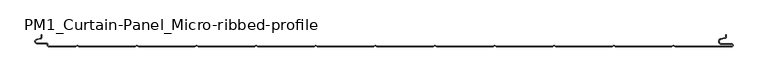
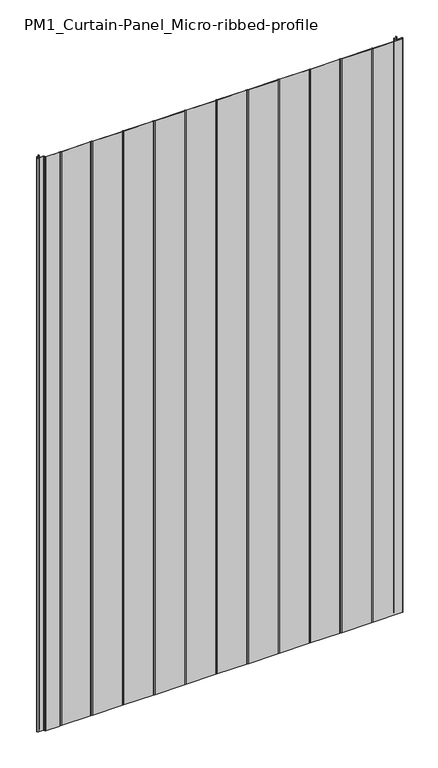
"""IFC4 building model written with IfcOpenShell, lengths in millimetres: plate geometry, PM1_Curtain-Panel_Micro-ribbed-profile : ACH_PM1_Acoustic-Sectioning-Panel_100M."""

from ifc_helpers import new_model, si_unit, frame, origin, place, context, project, spatial, polyline, circle_curve, source, transform, mapped, element, save
from ifc_brep_helpers import plane_surface, cylinder_surface, revolved_surface, advanced_brep


def pm1_curtain_panel_micro_ribbed_profile_cca0c929(model_context):
    return source(origin(), model_context, "Body", "AdvancedBrep", [
        advanced_brep(
        [(-575.0, -84.121443, 1945.7507136), (-576.5500978, -86.0701831, 1945.7507136), (-582.7098239, -87.492268, 1945.7507136), (-581.9, -94.6, 1945.7507136), (-566.4, -94.6, 1945.7507136), (-564.4, -96.6, 1945.7507136), (-564.4, -98.0, 1945.7507136), (-562.4, -100.0, 1945.7507136), (-517.0999995, -100.0, 1945.7507136), (-514.4, -98.4411545, 1945.7507136), (-511.7000005, -100.0, 1945.7507136), (-417.0999995, -100.0, 1945.7507136), (-414.4, -98.4411545, 1945.7507136), (-411.7000005, -100.0, 1945.7507136), (-317.0999995, -100.0, 1945.7507136), (-314.4, -98.4411545, 1945.7507136), (-311.7000005, -100.0, 1945.7507136), (-217.0999995, -100.0, 1945.7507136), (-214.4, -98.4411545, 1945.7507136), (-211.7000005, -100.0, 1945.7507136), (-117.0999995, -100.0, 1945.7507136), (-114.4, -98.4411545, 1945.7507136), (-111.7000005, -100.0, 1945.7507136), (-17.0999995, -100.0, 1945.7507136), (-14.4, -98.4411545, 1945.7507136), (-11.7000005, -100.0, 1945.7507136), (82.9000005, -100.0, 1945.7507136), (85.6, -98.4411545, 1945.7507136), (88.2999995, -100.0, 1945.7507136), (182.9000005, -100.0, 1945.7507136), (185.6, -98.4411545, 1945.7507136), (188.2999995, -100.0, 1945.7507136), (282.9000005, -100.0, 1945.7507136), (285.6, -98.4411545, 1945.7507136), (288.2999995, -100.0, 1945.7507136), (382.9000005, -100.0, 1945.7507136), (385.6, -98.4411545, 1945.7507136), (388.2999995, -100.0, 1945.7507136), (482.9000005, -100.0, 1945.7507136), (485.6, -98.4411545, 1945.7507136), (488.2999995, -100.0, 1945.7507136), (583.1, -100.0, 1945.7507136), (585.6, -97.5, 1945.7507136), (583.1, -95.0, 1945.7507136), (566.1, -95.0, 1945.7507136), (565.405407, -87.060769, 1945.7507136), (571.8514855, -85.9241509, 1945.7507136), (574.0, -83.3636508, 1945.7507136), (574.0, -80.0, 1945.7507136), (573.2, -80.0, 1945.7507136), (573.2, -83.3636508, 1945.7507136), (571.7125669, -85.1363047, 1945.7507136), (565.2664884, -86.2729228, 1945.7507136), (566.1, -95.8, 1945.7507136), (583.1, -95.8, 1945.7507136), (583.1, -99.2, 1945.7507136), (488.5143588, -99.2, 1945.7507136), (485.6, -97.517394, 1945.7507136), (482.6856412, -99.2, 1945.7507136), (388.5143588, -99.2, 1945.7507136), (385.6, -97.517394, 1945.7507136), (382.6856412, -99.2, 1945.7507136), (288.5143588, -99.2, 1945.7507136), (285.6, -97.517394, 1945.7507136), (282.6856412, -99.2, 1945.7507136), (188.5143588, -99.2, 1945.7507136), (185.6, -97.517394, 1945.7507136), (182.6856412, -99.2, 1945.7507136), (88.5143588, -99.2, 1945.7507136), (85.6, -97.517394, 1945.7507136), (82.6856412, -99.2, 1945.7507136), (-11.4856412, -99.2, 1945.7507136), (-14.4, -97.517394, 1945.7507136), (-17.3143588, -99.2, 1945.7507136), (-111.4856412, -99.2, 1945.7507136), (-114.4, -97.517394, 1945.7507136), (-117.3143588, -99.2, 1945.7507136), (-211.4856412, -99.2, 1945.7507136), (-214.4, -97.517394, 1945.7507136), (-217.3143588, -99.2, 1945.7507136), (-311.4856412, -99.2, 1945.7507136), (-314.4, -97.517394, 1945.7507136), (-317.3143588, -99.2, 1945.7507136), (-411.4856412, -99.2, 1945.7507136), (-414.4, -97.517394, 1945.7507136), (-417.3143588, -99.2, 1945.7507136), (-511.4856412, -99.2, 1945.7507136), (-514.4, -97.517394, 1945.7507136), (-517.3143588, -99.2, 1945.7507136), (-562.4, -99.2, 1945.7507136), (-563.6, -98.0, 1945.7507136), (-563.6, -96.6, 1945.7507136), (-566.4, -93.8, 1945.7507136), (-581.9, -93.8, 1945.7507136), (-582.529863, -88.2717638, 1945.7507136), (-576.370137, -86.849679, 1945.7507136), (-574.2, -84.121443, 1945.7507136), (-574.2, -80.0, 1945.7507136), (-575.0, -80.0, 1945.7507136), (-575.0, -84.121443, 0.0), (-575.0, -80.0, 0.0), (-574.2, -80.0, 0.0), (-574.2, -84.121443, 0.0), (-576.370137, -86.8496792, 0.0), (-582.529863, -88.271764, 0.0), (-581.9, -93.8, 0.0), (-566.4, -93.8, 0.0), (-563.6, -96.6, 0.0), (-563.6, -98.0, 0.0), (-562.4, -99.2, 0.0), (-517.3143588, -99.2, 0.0), (-514.4, -97.517394, 0.0), (-511.4856412, -99.2, 0.0), (-417.3143588, -99.2, 0.0), (-414.4, -97.517394, 0.0), (-411.4856412, -99.2, 0.0), (-317.3143588, -99.2, 0.0), (-314.4, -97.517394, 0.0), (-311.4856412, -99.2, 0.0), (-217.3143588, -99.2, 0.0), (-214.4, -97.517394, 0.0), (-211.4856412, -99.2, 0.0), (-117.3143588, -99.2, 0.0), (-114.4, -97.517394, 0.0), (-111.4856412, -99.2, 0.0), (-17.3143588, -99.2, 0.0), (-14.4, -97.517394, 0.0), (-11.4856412, -99.2, 0.0), (82.6856412, -99.2, 0.0), (85.6, -97.517394, 0.0), (88.5143588, -99.2, 0.0), (182.6856412, -99.2, 0.0), (185.6, -97.517394, 0.0), (188.5143588, -99.2, 0.0), (282.6856412, -99.2, 0.0), (285.6, -97.517394, 0.0), (288.5143588, -99.2, 0.0), (382.6856412, -99.2, 0.0), (385.6, -97.517394, 0.0), (388.5143588, -99.2, 0.0), (482.6856412, -99.2, 0.0), (485.6, -97.517394, 0.0), (488.5143588, -99.2, 0.0), (583.1, -99.2, 0.0), (583.1, -95.8, 0.0), (566.1, -95.8, 0.0), (565.2664884, -86.2729229, 0.0), (571.7125669, -85.1363047, 0.0), (573.2, -83.3636508, 0.0), (573.2, -80.0, 0.0), (574.0, -80.0, 0.0), (574.0, -83.3636508, 0.0), (571.8514855, -85.9241509, 0.0), (565.405407, -87.060769, 0.0), (566.1, -95.0, 0.0), (583.1, -95.0, 0.0), (585.6, -97.5, 0.0), (583.1, -100.0, 0.0), (488.2999995, -100.0, 0.0), (485.6, -98.4411545, 0.0), (482.9000005, -100.0, 0.0), (388.2999995, -100.0, 0.0), (385.6, -98.4411545, 0.0), (382.9000005, -100.0, 0.0), (288.2999995, -100.0, 0.0), (285.6, -98.4411545, 0.0), (282.9000005, -100.0, 0.0), (188.2999995, -100.0, 0.0), (185.6, -98.4411545, 0.0), (182.9000005, -100.0, 0.0), (88.2999995, -100.0, 0.0), (85.6, -98.4411545, 0.0), (82.9000005, -100.0, 0.0), (-11.7000005, -100.0, 0.0), (-14.4, -98.4411545, 0.0), (-17.0999995, -100.0, 0.0), (-111.7000005, -100.0, 0.0), (-114.4, -98.4411545, 0.0), (-117.0999995, -100.0, 0.0), (-211.7000005, -100.0, 0.0), (-214.4, -98.4411545, 0.0), (-217.0999995, -100.0, 0.0), (-311.7000005, -100.0, 0.0), (-314.4, -98.4411545, 0.0), (-317.0999995, -100.0, 0.0), (-411.7000005, -100.0, 0.0), (-414.4, -98.4411545, 0.0), (-417.0999995, -100.0, 0.0), (-511.7000005, -100.0, 0.0), (-514.4, -98.4411545, 0.0), (-517.0999995, -100.0, 0.0), (-562.4, -100.0, 0.0), (-564.4, -98.0, 0.0), (-564.4, -96.6, 0.0), (-566.4, -94.6, 0.0), (-581.9, -94.6, 0.0), (-582.7098239, -87.4922678, 0.0), (-576.5500979, -86.070183, 0.0)],
        [
            (0, 1, circle_curve(frame((-577.0, -84.121443, 1945.7507136), z_axis=(0.0, 0.0, -1.0), x_axis=(1.0, 0.0, 0.0)), 2.0)),
            (1, 2),
            (2, 3, circle_curve(frame((-581.9, -91.0, 1945.7507136), z_axis=(0.0, 0.0, 1.0), x_axis=(1.0, 0.0, 0.0)), 3.6)),
            (3, 4),
            (4, 5, circle_curve(frame((-566.4, -96.6, 1945.7507136), z_axis=(0.0, 0.0, -1.0), x_axis=(1.0, 0.0, 0.0)), 2.0)),
            (5, 6),
            (6, 7, circle_curve(frame((-562.4, -98.0, 1945.7507136), z_axis=(0.0, 0.0, 1.0), x_axis=(1.0, 0.0, 0.0)), 2.0)),
            (7, 8),
            (8, 9),
            (9, 10),
            (10, 11),
            (11, 12),
            (12, 13),
            (13, 14),
            (14, 15),
            (15, 16),
            (16, 17),
            (17, 18),
            (18, 19),
            (19, 20),
            (20, 21),
            (21, 22),
            (22, 23),
            (23, 24),
            (24, 25),
            (25, 26),
            (26, 27),
            (27, 28),
            (28, 29),
            (29, 30),
            (30, 31),
            (31, 32),
            (32, 33),
            (33, 34),
            (34, 35),
            (35, 36),
            (36, 37),
            (37, 38),
            (38, 39),
            (39, 40),
            (40, 41),
            (41, 42, circle_curve(frame((583.1, -97.5, 1945.7507136), z_axis=(0.0, 0.0, 1.0), x_axis=(1.0, 0.0, 0.0)), 2.5)),
            (42, 43, circle_curve(frame((583.1, -97.5, 1945.7507136), z_axis=(0.0, 0.0, 1.0), x_axis=(1.0, 0.0, 0.0)), 2.5)),
            (43, 44),
            (44, 45, circle_curve(frame((566.1, -91.0, 1945.7507136), z_axis=(0.0, 0.0, -1.0), x_axis=(1.0, 0.0, 0.0)), 4.0)),
            (45, 46),
            (46, 47, circle_curve(frame((571.4, -83.3636508, 1945.7507136), z_axis=(0.0, 0.0, 1.0), x_axis=(1.0, 0.0, 0.0)), 2.6)),
            (47, 48),
            (48, 49),
            (49, 50),
            (50, 51, circle_curve(frame((571.4, -83.3636508, 1945.7507136), z_axis=(0.0, 0.0, -1.0), x_axis=(1.0, 0.0, 0.0)), 1.8)),
            (51, 52),
            (52, 53, circle_curve(frame((566.1, -91.0, 1945.7507136), z_axis=(0.0, 0.0, 1.0), x_axis=(1.0, 0.0, 0.0)), 4.8)),
            (53, 54),
            (54, 55, circle_curve(frame((583.1, -97.5, 1945.7507136), z_axis=(0.0, 0.0, -1.0), x_axis=(1.0, 0.0, 0.0)), 1.7)),
            (55, 56),
            (56, 57),
            (57, 58),
            (58, 59),
            (59, 60),
            (60, 61),
            (61, 62),
            (62, 63),
            (63, 64),
            (64, 65),
            (65, 66),
            (66, 67),
            (67, 68),
            (68, 69),
            (69, 70),
            (70, 71),
            (71, 72),
            (72, 73),
            (73, 74),
            (74, 75),
            (75, 76),
            (76, 77),
            (77, 78),
            (78, 79),
            (79, 80),
            (80, 81),
            (81, 82),
            (82, 83),
            (83, 84),
            (84, 85),
            (85, 86),
            (86, 87),
            (87, 88),
            (88, 89),
            (89, 90, circle_curve(frame((-562.4, -98.0, 1945.7507136), z_axis=(0.0, 0.0, -1.0), x_axis=(1.0, 0.0, 0.0)), 1.2)),
            (90, 91),
            (91, 92, circle_curve(frame((-566.4, -96.6, 1945.7507136), z_axis=(0.0, 0.0, 1.0), x_axis=(1.0, 0.0, 0.0)), 2.8)),
            (92, 93),
            (93, 94, circle_curve(frame((-581.9, -91.0, 1945.7507136), z_axis=(0.0, 0.0, -1.0), x_axis=(1.0, 0.0, 0.0)), 2.8)),
            (94, 95),
            (95, 96, circle_curve(frame((-577.0, -84.121443, 1945.7507136), z_axis=(0.0, 0.0, 1.0), x_axis=(1.0, 0.0, 0.0)), 2.8)),
            (96, 97),
            (97, 98),
            (98, 0),
            (99, 100),
            (100, 101),
            (101, 102),
            (102, 103, circle_curve(frame((-577.0, -84.121443, 0.0), z_axis=(0.0, 0.0, -1.0), x_axis=(1.0, 0.0, 0.0)), 2.8)),
            (103, 104),
            (104, 105, circle_curve(frame((-581.9, -91.0, 0.0), z_axis=(0.0, 0.0, 1.0), x_axis=(1.0, 0.0, 0.0)), 2.8)),
            (105, 106),
            (106, 107, circle_curve(frame((-566.4, -96.6, 0.0), z_axis=(0.0, 0.0, -1.0), x_axis=(1.0, 0.0, 0.0)), 2.8)),
            (107, 108),
            (108, 109, circle_curve(frame((-562.4, -98.0, 0.0), z_axis=(0.0, 0.0, 1.0), x_axis=(1.0, 0.0, 0.0)), 1.2)),
            (109, 110),
            (110, 111),
            (111, 112),
            (112, 113),
            (113, 114),
            (114, 115),
            (115, 116),
            (116, 117),
            (117, 118),
            (118, 119),
            (119, 120),
            (120, 121),
            (121, 122),
            (122, 123),
            (123, 124),
            (124, 125),
            (125, 126),
            (126, 127),
            (127, 128),
            (128, 129),
            (129, 130),
            (130, 131),
            (131, 132),
            (132, 133),
            (133, 134),
            (134, 135),
            (135, 136),
            (136, 137),
            (137, 138),
            (138, 139),
            (139, 140),
            (140, 141),
            (141, 142),
            (142, 143),
            (143, 144, circle_curve(frame((583.1, -97.5, 0.0), z_axis=(0.0, 0.0, 1.0), x_axis=(1.0, 0.0, 0.0)), 1.7)),
            (144, 145),
            (145, 146, circle_curve(frame((566.1, -91.0, 0.0), z_axis=(0.0, 0.0, -1.0), x_axis=(1.0, 0.0, 0.0)), 4.8)),
            (146, 147),
            (147, 148, circle_curve(frame((571.4, -83.3636508, 0.0), z_axis=(0.0, 0.0, 1.0), x_axis=(1.0, 0.0, 0.0)), 1.8)),
            (148, 149),
            (149, 150),
            (150, 151),
            (151, 152, circle_curve(frame((571.4, -83.3636508, 0.0), z_axis=(0.0, 0.0, -1.0), x_axis=(1.0, 0.0, 0.0)), 2.6)),
            (152, 153),
            (153, 154, circle_curve(frame((566.1, -91.0, 0.0), z_axis=(0.0, 0.0, 1.0), x_axis=(1.0, 0.0, 0.0)), 4.0)),
            (154, 155),
            (155, 156, circle_curve(frame((583.1, -97.5, 0.0), z_axis=(0.0, 0.0, -1.0), x_axis=(1.0, 0.0, 0.0)), 2.5)),
            (156, 157, circle_curve(frame((583.1, -97.5, 0.0), z_axis=(0.0, 0.0, -1.0), x_axis=(1.0, 0.0, 0.0)), 2.5)),
            (157, 158),
            (158, 159),
            (159, 160),
            (160, 161),
            (161, 162),
            (162, 163),
            (163, 164),
            (164, 165),
            (165, 166),
            (166, 167),
            (167, 168),
            (168, 169),
            (169, 170),
            (170, 171),
            (171, 172),
            (172, 173),
            (173, 174),
            (174, 175),
            (175, 176),
            (176, 177),
            (177, 178),
            (178, 179),
            (179, 180),
            (180, 181),
            (181, 182),
            (182, 183),
            (183, 184),
            (184, 185),
            (185, 186),
            (186, 187),
            (187, 188),
            (188, 189),
            (189, 190),
            (190, 191),
            (191, 192, circle_curve(frame((-562.4, -98.0, 0.0), z_axis=(0.0, 0.0, -1.0), x_axis=(1.0, 0.0, 0.0)), 2.0)),
            (192, 193),
            (193, 194, circle_curve(frame((-566.4, -96.6, 0.0), z_axis=(0.0, 0.0, 1.0), x_axis=(1.0, 0.0, 0.0)), 2.0)),
            (194, 195),
            (195, 196, circle_curve(frame((-581.9, -91.0, 0.0), z_axis=(0.0, 0.0, -1.0), x_axis=(1.0, 0.0, 0.0)), 3.6)),
            (196, 197),
            (197, 99, circle_curve(frame((-577.0, -84.121443, 0.0), z_axis=(0.0, 0.0, 1.0), x_axis=(1.0, 0.0, 0.0)), 2.0)),
            (0, 99),
            (197, 1),
            (196, 2),
            (195, 3),
            (194, 4),
            (193, 5),
            (192, 6),
            (191, 7),
            (190, 8),
            (189, 9),
            (188, 10),
            (187, 11),
            (186, 12),
            (185, 13),
            (184, 14),
            (183, 15),
            (182, 16),
            (181, 17),
            (180, 18),
            (179, 19),
            (178, 20),
            (177, 21),
            (176, 22),
            (175, 23),
            (174, 24),
            (173, 25),
            (172, 26),
            (171, 27),
            (170, 28),
            (169, 29),
            (168, 30),
            (167, 31),
            (166, 32),
            (165, 33),
            (164, 34),
            (163, 35),
            (162, 36),
            (161, 37),
            (160, 38),
            (159, 39),
            (158, 40),
            (157, 41),
            (155, 43),
            (154, 44),
            (153, 45),
            (152, 46),
            (151, 47),
            (150, 48),
            (149, 49),
            (148, 50),
            (147, 51),
            (146, 52),
            (145, 53),
            (144, 54),
            (143, 55),
            (142, 56),
            (141, 57),
            (140, 58),
            (139, 59),
            (138, 60),
            (137, 61),
            (136, 62),
            (135, 63),
            (134, 64),
            (133, 65),
            (132, 66),
            (131, 67),
            (130, 68),
            (129, 69),
            (128, 70),
            (127, 71),
            (126, 72),
            (125, 73),
            (124, 74),
            (123, 75),
            (122, 76),
            (121, 77),
            (120, 78),
            (119, 79),
            (118, 80),
            (117, 81),
            (116, 82),
            (115, 83),
            (114, 84),
            (113, 85),
            (112, 86),
            (111, 87),
            (110, 88),
            (109, 89),
            (108, 90),
            (107, 91),
            (106, 92),
            (105, 93),
            (104, 94),
            (103, 95),
            (102, 96),
            (101, 97),
            (100, 98),
        ],
        [
            plane_surface(frame((-575.0, -100.0, 1945.7507136), z_axis=(0.0, 0.0, 1.0), x_axis=(0.0, 1.0, 0.0))),
            plane_surface(frame((-575.0, -100.0, 0.0), z_axis=(0.0, 0.0, -1.0), x_axis=(0.0, 1.0, 0.0))),
            revolved_surface(polyline([(-575.0, -84.121443, 0.0), (-575.0, -84.121443, 1945.7507136)]), (-577.0, -84.121443, 1945.7507136), (0.0, 0.0, -1.0)),
            plane_surface(frame((-576.5500979, -86.070183, 1945.7507136), z_axis=(-0.22495108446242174, 0.9743700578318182, 0.0), x_axis=(0.0, 0.0, -1.0))),
            cylinder_surface(frame((-581.9, -91.0, 1945.7507136), z_axis=(0.0, 0.0, 1.0), x_axis=(1.0, 0.0, 0.0)), 3.6),
            plane_surface(frame((-581.9, -94.6, 1945.7507136), z_axis=(0.0, -1.0, 0.0), x_axis=(0.0, 0.0, -1.0))),
            revolved_surface(polyline([(-564.4, -96.6, 0.0), (-564.4, -96.6, 1945.7507136)]), (-566.4, -96.6, 1945.7507136), (0.0, 0.0, -1.0)),
            plane_surface(frame((-564.4, -96.6, 1945.7507136), z_axis=(-1.0, 0.0, 0.0), x_axis=(0.0, 0.0, -1.0))),
            cylinder_surface(frame((-562.4, -98.0, 1945.7507136), z_axis=(0.0, 0.0, 1.0), x_axis=(1.0, 0.0, 0.0)), 2.0),
            plane_surface(frame((-562.4, -100.0, 1945.7507136), z_axis=(0.0, -1.0, 0.0), x_axis=(0.0, 0.0, -1.0))),
            plane_surface(frame((-517.0999995, -100.0, 1945.7507136), z_axis=(0.5000000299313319, -0.8660253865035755, 0.0), x_axis=(0.0, 0.0, -1.0))),
            plane_surface(frame((-514.4, -98.4411545, 1945.7507136), z_axis=(-0.5000000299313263, -0.8660253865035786, 0.0), x_axis=(0.0, 0.0, -1.0))),
            plane_surface(frame((-511.7000005, -100.0, 1945.7507136), z_axis=(0.0, -1.0, 0.0), x_axis=(0.0, 0.0, -1.0))),
            plane_surface(frame((-417.0999995, -100.0, 1945.7507136), z_axis=(0.5000000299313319, -0.8660253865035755, 0.0), x_axis=(0.0, 0.0, -1.0))),
            plane_surface(frame((-414.4, -98.4411545, 1945.7507136), z_axis=(-0.5000000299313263, -0.8660253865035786, 0.0), x_axis=(0.0, 0.0, -1.0))),
            plane_surface(frame((-411.7000005, -100.0, 1945.7507136), z_axis=(0.0, -1.0, 0.0), x_axis=(0.0, 0.0, -1.0))),
            plane_surface(frame((-317.0999995, -100.0, 1945.7507136), z_axis=(0.5000000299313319, -0.8660253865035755, 0.0), x_axis=(0.0, 0.0, -1.0))),
            plane_surface(frame((-314.4, -98.4411545, 1945.7507136), z_axis=(-0.5000000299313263, -0.8660253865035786, 0.0), x_axis=(0.0, 0.0, -1.0))),
            plane_surface(frame((-311.7000005, -100.0, 1945.7507136), z_axis=(0.0, -1.0, 0.0), x_axis=(0.0, 0.0, -1.0))),
            plane_surface(frame((-217.0999995, -100.0, 1945.7507136), z_axis=(0.5000000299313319, -0.8660253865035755, 0.0), x_axis=(0.0, 0.0, -1.0))),
            plane_surface(frame((-214.4, -98.4411545, 1945.7507136), z_axis=(-0.5000000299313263, -0.8660253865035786, 0.0), x_axis=(0.0, 0.0, -1.0))),
            plane_surface(frame((-211.7000005, -100.0, 1945.7507136), z_axis=(0.0, -1.0, 0.0), x_axis=(0.0, 0.0, -1.0))),
            plane_surface(frame((-117.0999995, -100.0, 1945.7507136), z_axis=(0.5000000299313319, -0.8660253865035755, 0.0), x_axis=(0.0, 0.0, -1.0))),
            plane_surface(frame((-114.4, -98.4411545, 1945.7507136), z_axis=(-0.5000000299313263, -0.8660253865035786, 0.0), x_axis=(0.0, 0.0, -1.0))),
            plane_surface(frame((-111.7000005, -100.0, 1945.7507136), z_axis=(0.0, -1.0, 0.0), x_axis=(0.0, 0.0, -1.0))),
            plane_surface(frame((-17.0999995, -100.0, 1945.7507136), z_axis=(0.5000000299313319, -0.8660253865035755, 0.0), x_axis=(0.0, 0.0, -1.0))),
            plane_surface(frame((-14.4, -98.4411545, 1945.7507136), z_axis=(-0.5000000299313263, -0.8660253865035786, 0.0), x_axis=(0.0, 0.0, -1.0))),
            plane_surface(frame((-11.7000005, -100.0, 1945.7507136), z_axis=(0.0, -1.0, 0.0), x_axis=(0.0, 0.0, -1.0))),
            plane_surface(frame((82.9000005, -100.0, 1945.7507136), z_axis=(0.5000000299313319, -0.8660253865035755, 0.0), x_axis=(0.0, 0.0, -1.0))),
            plane_surface(frame((85.6, -98.4411545, 1945.7507136), z_axis=(-0.5000000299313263, -0.8660253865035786, 0.0), x_axis=(0.0, 0.0, -1.0))),
            plane_surface(frame((88.2999995, -100.0, 1945.7507136), z_axis=(0.0, -1.0, 0.0), x_axis=(0.0, 0.0, -1.0))),
            plane_surface(frame((182.9000005, -100.0, 1945.7507136), z_axis=(0.5000000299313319, -0.8660253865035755, 0.0), x_axis=(0.0, 0.0, -1.0))),
            plane_surface(frame((185.6, -98.4411545, 1945.7507136), z_axis=(-0.5000000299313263, -0.8660253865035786, 0.0), x_axis=(0.0, 0.0, -1.0))),
            plane_surface(frame((188.2999995, -100.0, 1945.7507136), z_axis=(0.0, -1.0, 0.0), x_axis=(0.0, 0.0, -1.0))),
            plane_surface(frame((282.9000005, -100.0, 1945.7507136), z_axis=(0.5000000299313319, -0.8660253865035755, 0.0), x_axis=(0.0, 0.0, -1.0))),
            plane_surface(frame((285.6, -98.4411545, 1945.7507136), z_axis=(-0.5000000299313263, -0.8660253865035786, 0.0), x_axis=(0.0, 0.0, -1.0))),
            plane_surface(frame((288.2999995, -100.0, 1945.7507136), z_axis=(0.0, -1.0, 0.0), x_axis=(0.0, 0.0, -1.0))),
            plane_surface(frame((382.9000005, -100.0, 1945.7507136), z_axis=(0.5000000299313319, -0.8660253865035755, 0.0), x_axis=(0.0, 0.0, -1.0))),
            plane_surface(frame((385.6, -98.4411545, 1945.7507136), z_axis=(-0.5000000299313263, -0.8660253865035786, 0.0), x_axis=(0.0, 0.0, -1.0))),
            plane_surface(frame((388.2999995, -100.0, 1945.7507136), z_axis=(0.0, -1.0, 0.0), x_axis=(0.0, 0.0, -1.0))),
            plane_surface(frame((482.9000005, -100.0, 1945.7507136), z_axis=(0.5000000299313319, -0.8660253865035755, 0.0), x_axis=(0.0, 0.0, -1.0))),
            plane_surface(frame((485.6, -98.4411545, 1945.7507136), z_axis=(-0.5000000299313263, -0.8660253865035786, 0.0), x_axis=(0.0, 0.0, -1.0))),
            plane_surface(frame((535.6, -100.0, 1945.7507136), z_axis=(0.0, -1.0, 0.0), x_axis=(0.0, 0.0, -1.0))),
            cylinder_surface(frame((583.1, -97.5, 1945.7507136), z_axis=(0.0, 0.0, 1.0), x_axis=(1.0, 0.0, 0.0)), 2.5),
            plane_surface(frame((583.1, -95.0, 1945.7507136), z_axis=(0.0, 1.0, 0.0), x_axis=(0.0, 0.0, -1.0))),
            revolved_surface(polyline([(570.1, -91.0, 0.0), (570.1, -91.0, 1945.7507136)]), (566.1, -91.0, 1945.7507136), (0.0, 0.0, -1.0)),
            plane_surface(frame((565.405407, -87.060769, 1945.7507136), z_axis=(0.17364825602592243, -0.9848077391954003, 0.0), x_axis=(0.0, 0.0, -1.0))),
            cylinder_surface(frame((571.4, -83.3636508, 1945.7507136), z_axis=(0.0, 0.0, 1.0), x_axis=(1.0, 0.0, 0.0)), 2.6),
            plane_surface(frame((574.0, -83.3636508, 1945.7507136), z_axis=(1.0, 0.0, 0.0), x_axis=(0.0, 0.0, -1.0))),
            plane_surface(frame((574.0, -80.0, 1945.7507136), z_axis=(0.0, 1.0, 0.0), x_axis=(0.0, 0.0, -1.0))),
            plane_surface(frame((573.2, -80.0, 1945.7507136), z_axis=(-1.0, 0.0, 0.0), x_axis=(0.0, 0.0, -1.0))),
            revolved_surface(polyline([(573.1999999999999, -83.3636508, 0.0), (573.1999999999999, -83.3636508, 1945.7507136)]), (571.4, -83.3636508, 1945.7507136), (0.0, 0.0, -1.0)),
            plane_surface(frame((571.7125669, -85.1363047, 1945.7507136), z_axis=(-0.17364825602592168, 0.9848077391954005, 0.0), x_axis=(0.0, 0.0, -1.0))),
            cylinder_surface(frame((566.1, -91.0, 1945.7507136), z_axis=(0.0, 0.0, 1.0), x_axis=(1.0, 0.0, 0.0)), 4.8),
            plane_surface(frame((566.1, -95.8, 1945.7507136), z_axis=(0.0, -1.0, 0.0), x_axis=(0.0, 0.0, -1.0))),
            revolved_surface(polyline([(584.8000000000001, -97.5, 0.0), (584.8000000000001, -97.5, 1945.7507136)]), (583.1, -97.5, 1945.7507136), (0.0, 0.0, -1.0)),
            plane_surface(frame((535.6, -99.2, 1945.7507136), z_axis=(0.0, 1.0, 0.0), x_axis=(0.0, 0.0, -1.0))),
            plane_surface(frame((488.5143588, -99.2, 1945.7507136), z_axis=(0.5000000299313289, 0.8660253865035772, 0.0), x_axis=(0.0, 0.0, -1.0))),
            plane_surface(frame((485.6, -97.517394, 1945.7507136), z_axis=(-0.5000000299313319, 0.8660253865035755, 0.0), x_axis=(0.0, 0.0, -1.0))),
            plane_surface(frame((482.6856412, -99.2, 1945.7507136), z_axis=(0.0, 1.0, 0.0), x_axis=(0.0, 0.0, -1.0))),
            plane_surface(frame((388.5143588, -99.2, 1945.7507136), z_axis=(0.5000000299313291, 0.8660253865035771, 0.0), x_axis=(0.0, 0.0, -1.0))),
            plane_surface(frame((385.6, -97.517394, 1945.7507136), z_axis=(-0.500000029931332, 0.8660253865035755, 0.0), x_axis=(0.0, 0.0, -1.0))),
            plane_surface(frame((382.6856412, -99.2, 1945.7507136), z_axis=(0.0, 1.0, 0.0), x_axis=(0.0, 0.0, -1.0))),
            plane_surface(frame((288.5143588, -99.2, 1945.7507136), z_axis=(0.5000000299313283, 0.8660253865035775, 0.0), x_axis=(0.0, 0.0, -1.0))),
            plane_surface(frame((285.6, -97.517394, 1945.7507136), z_axis=(-0.5000000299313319, 0.8660253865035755, 0.0), x_axis=(0.0, 0.0, -1.0))),
            plane_surface(frame((282.6856412, -99.2, 1945.7507136), z_axis=(0.0, 1.0, 0.0), x_axis=(0.0, 0.0, -1.0))),
            plane_surface(frame((188.5143588, -99.2, 1945.7507136), z_axis=(0.5000000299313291, 0.8660253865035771, 0.0), x_axis=(0.0, 0.0, -1.0))),
            plane_surface(frame((185.6, -97.517394, 1945.7507136), z_axis=(-0.5000000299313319, 0.8660253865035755, 0.0), x_axis=(0.0, 0.0, -1.0))),
            plane_surface(frame((182.6856412, -99.2, 1945.7507136), z_axis=(0.0, 1.0, 0.0), x_axis=(0.0, 0.0, -1.0))),
            plane_surface(frame((88.5143588, -99.2, 1945.7507136), z_axis=(0.5000000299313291, 0.8660253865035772, 0.0), x_axis=(0.0, 0.0, -1.0))),
            plane_surface(frame((85.6, -97.517394, 1945.7507136), z_axis=(-0.5000000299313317, 0.8660253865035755, 0.0), x_axis=(0.0, 0.0, -1.0))),
            plane_surface(frame((82.6856412, -99.2, 1945.7507136), z_axis=(0.0, 1.0, 0.0), x_axis=(0.0, 0.0, -1.0))),
            plane_surface(frame((-11.4856412, -99.2, 1945.7507136), z_axis=(0.500000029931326, 0.8660253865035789, 0.0), x_axis=(0.0, 0.0, -1.0))),
            plane_surface(frame((-14.4, -97.517394, 1945.7507136), z_axis=(-0.500000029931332, 0.8660253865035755, 0.0), x_axis=(0.0, 0.0, -1.0))),
            plane_surface(frame((-17.3143588, -99.2, 1945.7507136), z_axis=(0.0, 1.0, 0.0), x_axis=(0.0, 0.0, -1.0))),
            plane_surface(frame((-111.4856412, -99.2, 1945.7507136), z_axis=(0.5000000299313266, 0.8660253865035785, 0.0), x_axis=(0.0, 0.0, -1.0))),
            plane_surface(frame((-114.4, -97.517394, 1945.7507136), z_axis=(-0.5000000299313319, 0.8660253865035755, 0.0), x_axis=(0.0, 0.0, -1.0))),
            plane_surface(frame((-117.3143588, -99.2, 1945.7507136), z_axis=(0.0, 1.0, 0.0), x_axis=(0.0, 0.0, -1.0))),
            plane_surface(frame((-211.4856412, -99.2, 1945.7507136), z_axis=(0.5000000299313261, 0.8660253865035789, 0.0), x_axis=(0.0, 0.0, -1.0))),
            plane_surface(frame((-214.4, -97.517394, 1945.7507136), z_axis=(-0.500000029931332, 0.8660253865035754, 0.0), x_axis=(0.0, 0.0, -1.0))),
            plane_surface(frame((-217.3143588, -99.2, 1945.7507136), z_axis=(0.0, 1.0, 0.0), x_axis=(0.0, 0.0, -1.0))),
            plane_surface(frame((-311.4856412, -99.2, 1945.7507136), z_axis=(0.5000000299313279, 0.8660253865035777, 0.0), x_axis=(0.0, 0.0, -1.0))),
            plane_surface(frame((-314.4, -97.517394, 1945.7507136), z_axis=(-0.5000000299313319, 0.8660253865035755, 0.0), x_axis=(0.0, 0.0, -1.0))),
            plane_surface(frame((-317.3143588, -99.2, 1945.7507136), z_axis=(0.0, 1.0, 0.0), x_axis=(0.0, 0.0, -1.0))),
            plane_surface(frame((-411.4856412, -99.2, 1945.7507136), z_axis=(0.5000000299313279, 0.8660253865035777, 0.0), x_axis=(0.0, 0.0, -1.0))),
            plane_surface(frame((-414.4, -97.517394, 1945.7507136), z_axis=(-0.5000000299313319, 0.8660253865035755, 0.0), x_axis=(0.0, 0.0, -1.0))),
            plane_surface(frame((-417.3143588, -99.2, 1945.7507136), z_axis=(0.0, 1.0, 0.0), x_axis=(0.0, 0.0, -1.0))),
            plane_surface(frame((-511.4856412, -99.2, 1945.7507136), z_axis=(0.5000000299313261, 0.8660253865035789, 0.0), x_axis=(0.0, 0.0, -1.0))),
            plane_surface(frame((-514.4, -97.517394, 1945.7507136), z_axis=(-0.5000000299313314, 0.8660253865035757, 0.0), x_axis=(0.0, 0.0, -1.0))),
            plane_surface(frame((-517.3143588, -99.2, 1945.7507136), z_axis=(0.0, 1.0, 0.0), x_axis=(0.0, 0.0, -1.0))),
            revolved_surface(polyline([(-561.1999999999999, -98.0, 0.0), (-561.1999999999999, -98.0, 1945.7507136)]), (-562.4, -98.0, 1945.7507136), (0.0, 0.0, -1.0)),
            plane_surface(frame((-563.6, -98.0, 1945.7507136), z_axis=(1.0, 0.0, 0.0), x_axis=(0.0, 0.0, -1.0))),
            cylinder_surface(frame((-566.4, -96.6, 1945.7507136), z_axis=(0.0, 0.0, 1.0), x_axis=(1.0, 0.0, 0.0)), 2.8),
            plane_surface(frame((-566.4, -93.8, 1945.7507136), z_axis=(0.0, 1.0, 0.0), x_axis=(0.0, 0.0, -1.0))),
            revolved_surface(polyline([(-579.1, -91.0, 0.0), (-579.1, -91.0, 1945.7507136)]), (-581.9, -91.0, 1945.7507136), (0.0, 0.0, -1.0)),
            plane_surface(frame((-582.529863, -88.271764, 1945.7507136), z_axis=(0.22495108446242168, -0.9743700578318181, 0.0), x_axis=(0.0, 0.0, -1.0))),
            cylinder_surface(frame((-577.0, -84.121443, 1945.7507136), z_axis=(0.0, 0.0, 1.0), x_axis=(1.0, 0.0, 0.0)), 2.8),
            plane_surface(frame((-574.2, -84.121443, 1945.7507136), z_axis=(1.0, 0.0, 0.0), x_axis=(0.0, 0.0, -1.0))),
            plane_surface(frame((-574.2, -80.0, 1945.7507136), z_axis=(0.0, 1.0, 0.0), x_axis=(0.0, 0.0, -1.0))),
            plane_surface(frame((-575.0, -80.0, 1945.7507136), z_axis=(-1.0, 0.0, 0.0), x_axis=(0.0, 0.0, -1.0))),
        ],
        [
            (0, [[1, 2, 3, 4, 5, 6, 7, 8, 9, 10, 11, 12, 13, 14, 15, 16, 17, 18, 19, 20, 21, 22, 23, 24, 25, 26, 27, 28, 29, 30, 31, 32, 33, 34, 35, 36, 37, 38, 39, 40, 41, 42, 43, 44, 45, 46, 47, 48, 49, 50, 51, 52, 53, 54, 55, 56, 57, 58, 59, 60, 61, 62, 63, 64, 65, 66, 67, 68, 69, 70, 71, 72, 73, 74, 75, 76, 77, 78, 79, 80, 81, 82, 83, 84, 85, 86, 87, 88, 89, 90, 91, 92, 93, 94, 95, 96, 97, 98, 99]]),
            (1, [[100, 101, 102, 103, 104, 105, 106, 107, 108, 109, 110, 111, 112, 113, 114, 115, 116, 117, 118, 119, 120, 121, 122, 123, 124, 125, 126, 127, 128, 129, 130, 131, 132, 133, 134, 135, 136, 137, 138, 139, 140, 141, 142, 143, 144, 145, 146, 147, 148, 149, 150, 151, 152, 153, 154, 155, 156, 157, 158, 159, 160, 161, 162, 163, 164, 165, 166, 167, 168, 169, 170, 171, 172, 173, 174, 175, 176, 177, 178, 179, 180, 181, 182, 183, 184, 185, 186, 187, 188, 189, 190, 191, 192, 193, 194, 195, 196, 197, 198]]),
            (2, [[-1, 199, -198, 200]]),
            (3, [[-2, -200, -197, 201]]),
            (4, [[-3, -201, -196, 202]]),
            (5, [[-4, -202, -195, 203]]),
            (6, [[-5, -203, -194, 204]]),
            (7, [[-6, -204, -193, 205]]),
            (8, [[-7, -205, -192, 206]]),
            (9, [[-8, -206, -191, 207]]),
            (10, [[-9, -207, -190, 208]]),
            (11, [[-10, -208, -189, 209]]),
            (12, [[-11, -209, -188, 210]]),
            (13, [[-12, -210, -187, 211]]),
            (14, [[-13, -211, -186, 212]]),
            (15, [[-14, -212, -185, 213]]),
            (16, [[-15, -213, -184, 214]]),
            (17, [[-16, -214, -183, 215]]),
            (18, [[-17, -215, -182, 216]]),
            (19, [[-18, -216, -181, 217]]),
            (20, [[-19, -217, -180, 218]]),
            (21, [[-20, -218, -179, 219]]),
            (22, [[-21, -219, -178, 220]]),
            (23, [[-22, -220, -177, 221]]),
            (24, [[-23, -221, -176, 222]]),
            (25, [[-24, -222, -175, 223]]),
            (26, [[-25, -223, -174, 224]]),
            (27, [[-26, -224, -173, 225]]),
            (28, [[-27, -225, -172, 226]]),
            (29, [[-28, -226, -171, 227]]),
            (30, [[-29, -227, -170, 228]]),
            (31, [[-30, -228, -169, 229]]),
            (32, [[-31, -229, -168, 230]]),
            (33, [[-32, -230, -167, 231]]),
            (34, [[-33, -231, -166, 232]]),
            (35, [[-34, -232, -165, 233]]),
            (36, [[-35, -233, -164, 234]]),
            (37, [[-36, -234, -163, 235]]),
            (38, [[-37, -235, -162, 236]]),
            (39, [[-38, -236, -161, 237]]),
            (40, [[-39, -237, -160, 238]]),
            (41, [[-40, -238, -159, 239]]),
            (42, [[-41, -239, -158, 240]]),
            (43, [[-240, -157, -156, 241, -43, -42]]),
            (44, [[-44, -241, -155, 242]]),
            (45, [[-45, -242, -154, 243]]),
            (46, [[-46, -243, -153, 244]]),
            (47, [[-47, -244, -152, 245]]),
            (48, [[-48, -245, -151, 246]]),
            (49, [[-49, -246, -150, 247]]),
            (50, [[-50, -247, -149, 248]]),
            (51, [[-51, -248, -148, 249]]),
            (52, [[-52, -249, -147, 250]]),
            (53, [[-53, -250, -146, 251]]),
            (54, [[-54, -251, -145, 252]]),
            (55, [[-55, -252, -144, 253]]),
            (56, [[-56, -253, -143, 254]]),
            (57, [[-57, -254, -142, 255]]),
            (58, [[-58, -255, -141, 256]]),
            (59, [[-59, -256, -140, 257]]),
            (60, [[-60, -257, -139, 258]]),
            (61, [[-61, -258, -138, 259]]),
            (62, [[-62, -259, -137, 260]]),
            (63, [[-63, -260, -136, 261]]),
            (64, [[-64, -261, -135, 262]]),
            (65, [[-65, -262, -134, 263]]),
            (66, [[-66, -263, -133, 264]]),
            (67, [[-67, -264, -132, 265]]),
            (68, [[-68, -265, -131, 266]]),
            (69, [[-69, -266, -130, 267]]),
            (70, [[-70, -267, -129, 268]]),
            (71, [[-71, -268, -128, 269]]),
            (72, [[-72, -269, -127, 270]]),
            (73, [[-73, -270, -126, 271]]),
            (74, [[-74, -271, -125, 272]]),
            (75, [[-75, -272, -124, 273]]),
            (76, [[-76, -273, -123, 274]]),
            (77, [[-77, -274, -122, 275]]),
            (78, [[-78, -275, -121, 276]]),
            (79, [[-79, -276, -120, 277]]),
            (80, [[-80, -277, -119, 278]]),
            (81, [[-81, -278, -118, 279]]),
            (82, [[-82, -279, -117, 280]]),
            (83, [[-83, -280, -116, 281]]),
            (84, [[-84, -281, -115, 282]]),
            (85, [[-85, -282, -114, 283]]),
            (86, [[-86, -283, -113, 284]]),
            (87, [[-87, -284, -112, 285]]),
            (88, [[-88, -285, -111, 286]]),
            (89, [[-89, -286, -110, 287]]),
            (90, [[-90, -287, -109, 288]]),
            (91, [[-91, -288, -108, 289]]),
            (92, [[-92, -289, -107, 290]]),
            (93, [[-93, -290, -106, 291]]),
            (94, [[-94, -291, -105, 292]]),
            (95, [[-95, -292, -104, 293]]),
            (96, [[-96, -293, -103, 294]]),
            (97, [[-97, -294, -102, 295]]),
            (98, [[-98, -295, -101, 296]]),
            (99, [[-99, -296, -100, -199]]),
        ],
    ),
    ])


if __name__ == "__main__":
    model = new_model("IFC4")
    model_context = context("Model", 3, world=origin())
    ifc_project = project(units=[si_unit("LENGTHUNIT", "METRE", prefix="MILLI")], contexts=[model_context])
    site = spatial("IfcSite", under=ifc_project)
    building = spatial("IfcBuilding", under=site)
    placement = place(None, origin())
    pm1_curtain_panel_micro_ribbed_profile_shape = pm1_curtain_panel_micro_ribbed_profile_cca0c929(model_context)
    element("IfcPlate", 1, ObjectType="PM1_Curtain-Panel_Micro-ribbed-profile : ACH_PM1_Acoustic-Sectioning-Panel_100M", at=placement, inside=building, context=model_context, shape_type="MappedRepresentation", body=[
        mapped(pm1_curtain_panel_micro_ribbed_profile_shape, transform((0.0, 0.0, 0.0), x_axis=(1.0, 0.0, 0.0), y_axis=(0.0, 1.0, 0.0), z_axis=(0.0, 0.0, 1.0))),
    ])
    save(model, "model.ifc")
